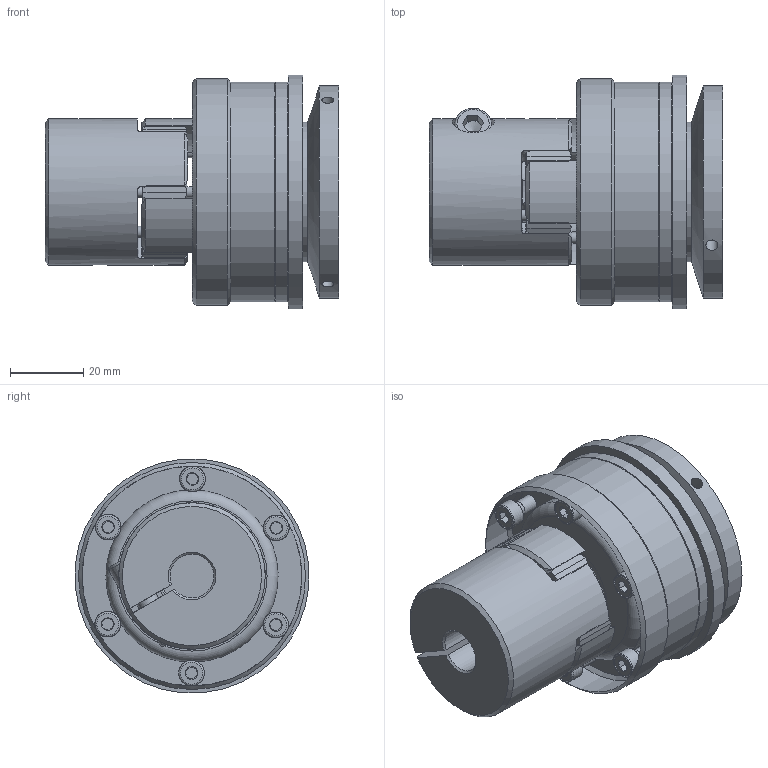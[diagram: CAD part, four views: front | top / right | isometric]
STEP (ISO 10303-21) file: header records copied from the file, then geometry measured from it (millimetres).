
FILE_DESCRIPTION( ( 'Unknown' ), '1' );
FILE_NAME( 'C:/Users/skarpstein/Desktop/Korrigierte 3D Modelle/KBK-E-KP/KBK EKP-19-81.stp', 'Unknown', ( 'Unknown' ), ( 'Unknown' ), 'PSStep 16.0.42', 'Unknown', ' ' );
FILE_SCHEMA( ( 'AUTOMOTIVE_DESIGN { 1 0 10303 214 1 1 1 1 }' ) );
Length unit declared in the file: millimetre
Products named in the file (26): ball_bearing_-_6005_0_01; ball_bearing_-_6005_0_03; ball_bearing_-_6005_0_02; Druckring 30; Elastomerflansch 19; Flansch L30; L-P-30 Grundkörper; Stellring 30; a_25; ISO EN DIN 4762_M4x16; Zahnkranz_19; Assem1_0; Assem1; KBE 2 - 19_Nabe; Socket Head Cap Screw_DIN_DIN 912 M6 x 20 --- 20C
Assembly tree (30 placements, depth 4):
  Assem1
    KBE 2 - 19_Nabe
    Socket Head Cap Screw_DIN_DIN 912 M6 x 20 --- 20C
    Stellring 30
      Stellring 30
    Druckring 30
      Druckring 30
    a_25
      a_25
    Flansch L30
      Flansch L30
    Zahnkranz_19
      Zahnkranz_19
    ISO EN DIN 4762_M4x16  x6
      ISO EN DIN 4762_M4x16
    L-P-30 Grundkörper
      L-P-30 Grundkörper
    Elastomerflansch 19
      Elastomerflansch 19
    Assem1_0
      ball_bearing_-_6005_0_01
        ball_bearing_-_6005_0_01
      ball_bearing_-_6005_0_02
        ball_bearing_-_6005_0_02
      ball_bearing_-_6005_0_03
        ball_bearing_-_6005_0_03
Bounding box: 80.2 x 63.81 x 63.81 mm (x, y, z)
Volume: 139333.9 mm3; surface area: 66318.9 mm2
Topology: 18 solids, 18 shells, 446 faces, 953 edges, 588 vertices
Faces by surface type: plane 171, cylinder 132, cone 109, torus 34
Full cylindrical faces by diameter (mm): 2 x2, 3 x6, 3.242 x9, 3.5 x6, 4 x12, 4.2 x6, 5 x1, 6 x1, 6.5 x1, 7 x12, 8 x1, 10 x1, 18 x2, 23.9 x1, 25 x3, 32 x2, 34 x1, 38 x2, 40 x1, 40.3 x2, 47 x3, 52 x1, 58 x1, 60 x2, 62 x1, 64 x1
Entity records: 12188 total; most frequent: CARTESIAN_POINT 2254, DIRECTION 1561, ORIENTED_EDGE 1226, AXIS2_PLACEMENT_3D 698, EDGE_CURVE 613, EDGE_LOOP 480, VERTEX_POINT 440, FACE_OUTER_BOUND 396
